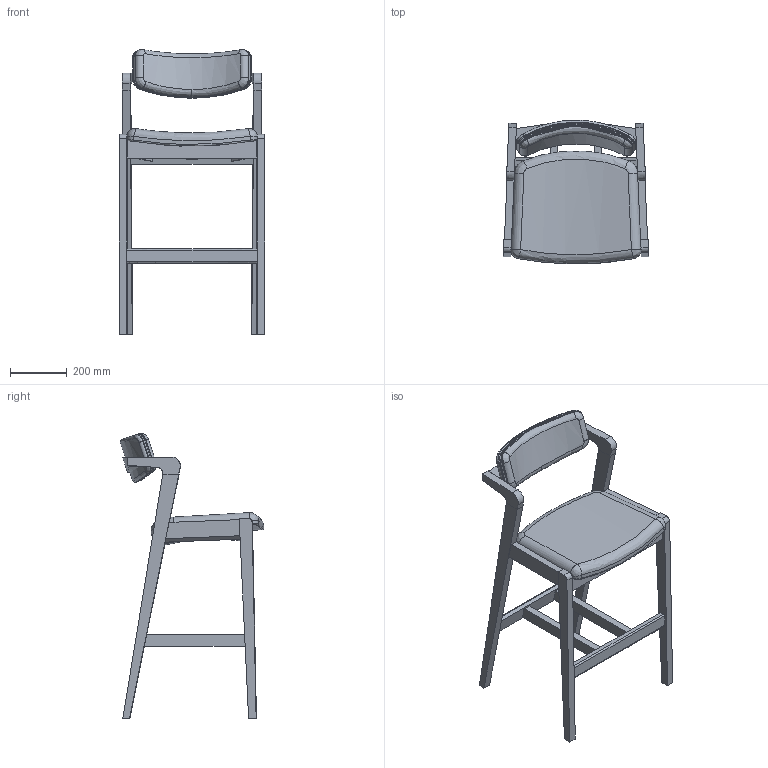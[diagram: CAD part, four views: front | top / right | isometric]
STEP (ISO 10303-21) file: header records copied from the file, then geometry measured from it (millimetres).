
FILE_DESCRIPTION(/* description */ (''),/* implementation_level */ '2;1');
FILE_NAME(/* name */ 'kinoshita_abord_w016s',/* time_stamp */ '2024-04-25T11:08:22+09:00',/* author */ (''),/* organization */ (''),/* preprocessor_version */ 'ST-DEVELOPER v16.5',/* originating_system */ '',/* authorisation */ '');
FILE_SCHEMA (('AUTOMOTIVE_DESIGN'));
Length unit declared in the file: millimetre
Products named in the file (1): Document
Bounding box: 513.56 x 505.45 x 1003.2 mm (x, y, z)
Volume: 12212754.9 mm3; surface area: 2159098 mm2
Topology: 6 solids, 7 shells, 313 faces, 795 edges, 489 vertices
Faces by surface type: bspline 267, plane 46
Entity records: 39123 total; most frequent: CARTESIAN_POINT 34306, ORIENTED_EDGE 1566, EDGE_CURVE 789, B_SPLINE_CURVE_WITH_KNOTS 603, VERTEX_POINT 488, EDGE_LOOP 349, ADVANCED_FACE 313, FACE_OUTER_BOUND 313
